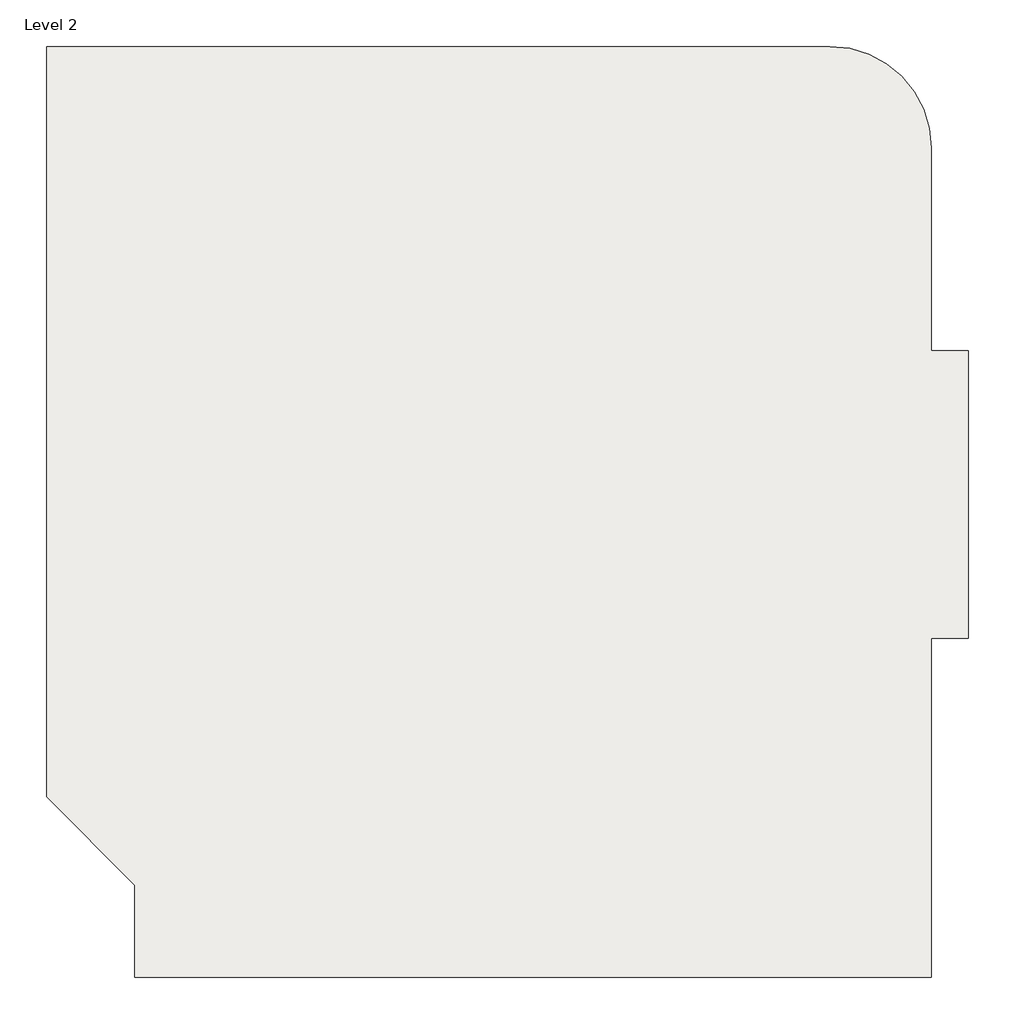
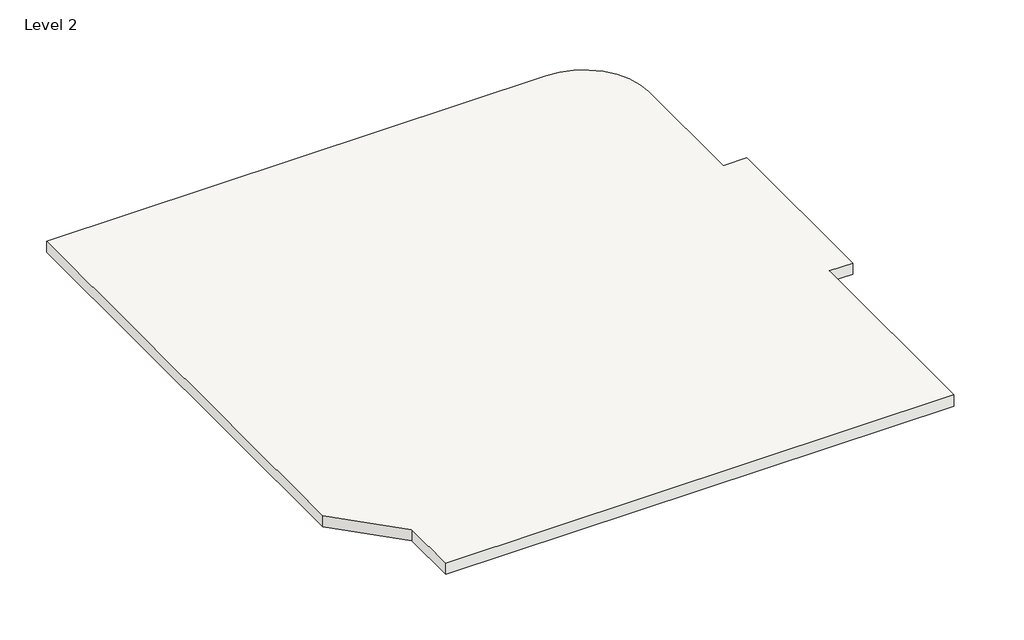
# One storey: 1 slab.
"""IFC4 building model written with IfcOpenShell, lengths in millimetres."""

from ifc_helpers import new_model, si_unit, point, frame, frame_2d, origin, place, context, project, spatial, polyline, circle_curve, trimmed, segment, composite_curve, outline, extrude, element, save

model = new_model("IFC4")

# Units and contexts
model_context = context("Model", 3, world=origin())
ifc_project = project(units=[si_unit("LENGTHUNIT", "METRE", prefix="MILLI")], contexts=[model_context])

# Site, building, storey
site = spatial("IfcSite", under=ifc_project)
building = spatial("IfcBuilding", under=site)
storey = spatial("IfcBuildingStorey", under=building, Name="Level 2", Elevation=3400.0)

# Slab
placement = place(None, origin())
element("IfcSlab", 1, ObjectType="Generic 200mm", at=placement, inside=storey, context=model_context, shape_type="SweptSolid", body=[
    extrude(outline(composite_curve([segment(polyline([(-7762.9123896, 944.5675672), (-7362.9123896, 944.5675672), (-7362.9123896, -2175.4324328), (-7762.9123896, -2175.4324328), (-7762.9123896, -5855.4324328), (-16404.3337459, -5855.4324328), (-16404.3337459, -4855.4324328), (-17362.9123896, -3896.853789), (-17362.9123896, 4244.5675672), (-8862.9123896, 4244.5675672)]), True, "CONTINUOUS"), segment(trimmed(circle_curve(frame_2d((-8862.9123896, 3144.5675672)), 1100.0), [point((-8862.9123896, 4244.5675672))], [point((-7762.9123896, 3144.5675672))], False, "CARTESIAN"), True, "CONTINUOUS"), segment(polyline([(-7762.9123896, 3144.5675672), (-7762.9123896, 944.5675672)]), True, "CONTINUOUS")], self_intersect=False)), frame((0.0, 0.0, 3200.0), z_axis=(0.0, 0.0, 1.0), x_axis=(1.0, 0.0, 0.0)), (0.0, 0.0, 1.0), 200.0),
])

save(model, "model.ifc")
